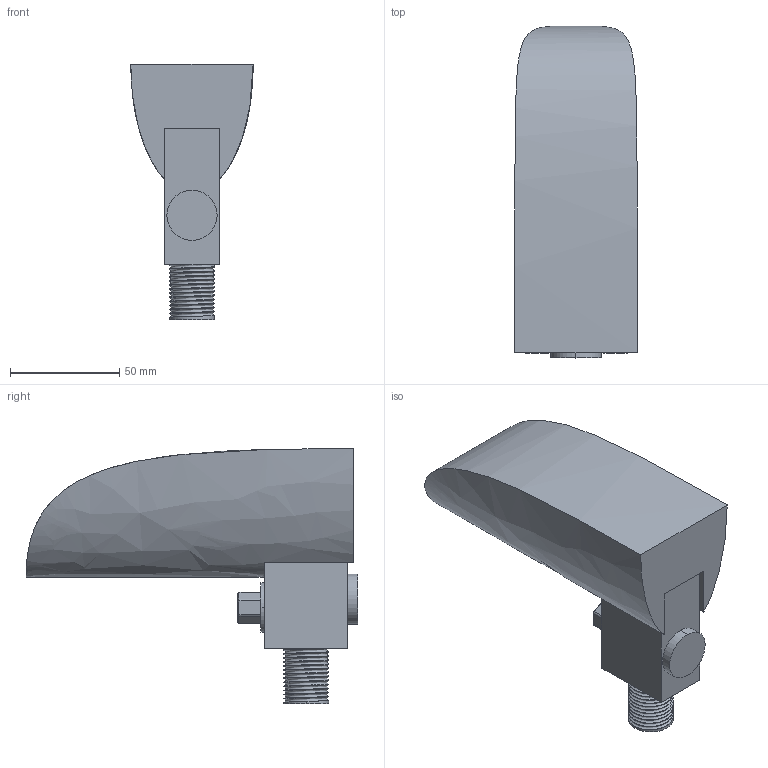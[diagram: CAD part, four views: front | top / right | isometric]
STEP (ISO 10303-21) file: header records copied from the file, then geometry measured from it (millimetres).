
FILE_DESCRIPTION (( 'STEP AP203' ), '1' );
FILE_NAME ('ES3311.STEP', '2016-08-15T10:05:49', ( '' ), ( '' ), 'SwSTEP 2.0', 'SolidWorks 2016', '' );
FILE_SCHEMA (( 'CONFIG_CONTROL_DESIGN' ));
Length unit declared in the file: millimetre
Products named in the file (1): ES3311
Bounding box: 55.9 x 151.72 x 116.62 mm (x, y, z)
Volume: 373213.5 mm3; surface area: 47199.4 mm2
Topology: 4 solids, 4 shells, 92 faces, 240 edges, 160 vertices
Faces by surface type: cylinder 49, plane 37, bspline 6
Entity records: 6881 total; most frequent: CARTESIAN_POINT 4796, ORIENTED_EDGE 480, DIRECTION 354, EDGE_CURVE 240, VERTEX_POINT 160, AXIS2_PLACEMENT_3D 120, VECTOR 114, LINE 114
